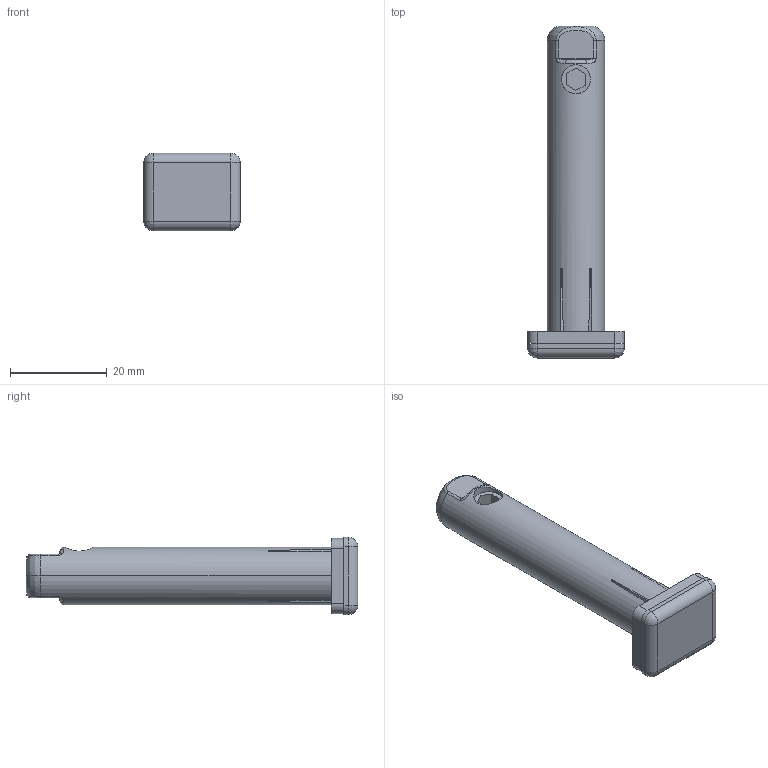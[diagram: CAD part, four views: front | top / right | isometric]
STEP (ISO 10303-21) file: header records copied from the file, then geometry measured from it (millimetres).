
FILE_DESCRIPTION(('STEP AP203'),'2;1');
FILE_NAME('ART-30605Z01202_1.stp','2020-10-12T13:52:49',(''),(''),'2009.3.110','THINKDESIGN','');
FILE_SCHEMA(('CONFIG_CONTROL_DESIGN'));
Length unit declared in the file: millimetre
Bounding box: 20 x 68.5 x 16 mm (x, y, z)
Volume: 8430.6 mm3; surface area: 3463.7 mm2
Topology: 1 solids, 1 shells, 81 faces, 211 edges, 133 vertices
Faces by surface type: plane 41, cylinder 26, bspline 14
Full cylindrical faces by diameter (mm): 6 x1
Entity records: 4020 total; most frequent: CARTESIAN_POINT 1961, ORIENTED_EDGE 414, DIRECTION 406, EDGE_CURVE 207, AXIS2_PLACEMENT_3D 149, VERTEX_POINT 133, VECTOR 108, LINE 108
